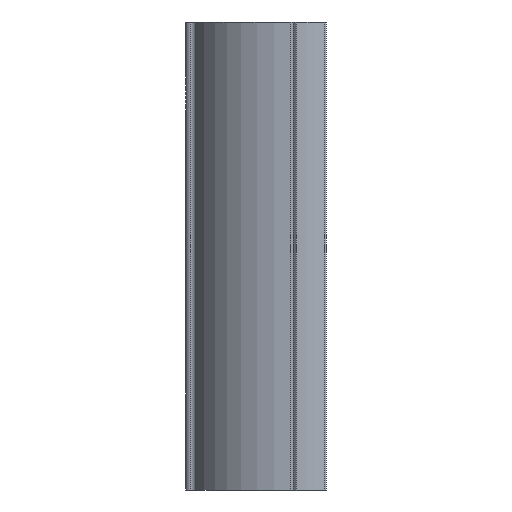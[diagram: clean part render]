
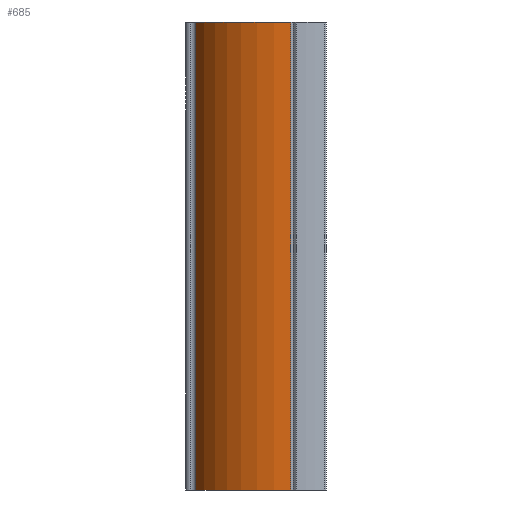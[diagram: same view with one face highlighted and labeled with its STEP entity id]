
A CAD part, front view. The second image highlights one B-rep face of the part: STEP entity #685.
In plain terms, the highlighted cylindrical face has radius 11.5 mm (diameter 23 mm), a partial arc.
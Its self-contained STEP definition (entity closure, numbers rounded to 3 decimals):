
#627=CARTESIAN_POINT('',(11.204,-7.496,50.0));
#628=VERTEX_POINT('',#627);
#635=CARTESIAN_POINT('',(11.204,-7.496,0.0));
#636=VERTEX_POINT('',#635);
#637=CARTESIAN_POINT('',(11.204,-7.496,0.0));
#638=DIRECTION('',(0.0,0.0,1.0));
#639=VECTOR('',#638,50.0);
#640=LINE('',#637,#639);
#641=EDGE_CURVE('',#636,#628,#640,.T.);
#653=CARTESIAN_POINT('',(11.5,4.,0.0));
#654=DIRECTION('',(0.0,0.0,1.0));
#655=DIRECTION('',(0.909,0.416,0.0));
#656=AXIS2_PLACEMENT_3D('',#653,#654,#655);
#657=CYLINDRICAL_SURFACE('',#656,11.5);
#658=CARTESIAN_POINT('',(1.044,-0.788,50.0));
#659=VERTEX_POINT('',#658);
#660=CARTESIAN_POINT('',(11.5,4.,50.0));
#661=DIRECTION('',(0.0,0.0,-1.0));
#662=DIRECTION('',(0.909,0.416,0.0));
#663=AXIS2_PLACEMENT_3D('',#660,#661,#662);
#664=CIRCLE('',#663,11.5);
#665=EDGE_CURVE('',#628,#659,#664,.T.);
#666=ORIENTED_EDGE('',*,*,#665,.T.);
#667=CARTESIAN_POINT('',(1.044,-0.788,0.0));
#668=VERTEX_POINT('',#667);
#669=CARTESIAN_POINT('',(1.044,-0.788,0.0));
#670=DIRECTION('',(0.0,0.0,1.0));
#671=VECTOR('',#670,50.0);
#672=LINE('',#669,#671);
#673=EDGE_CURVE('',#668,#659,#672,.T.);
#674=ORIENTED_EDGE('',*,*,#673,.F.);
#675=CARTESIAN_POINT('',(11.5,4.,0.0));
#676=DIRECTION('',(0.0,0.0,-1.0));
#677=DIRECTION('',(0.909,0.416,0.0));
#678=AXIS2_PLACEMENT_3D('',#675,#676,#677);
#679=CIRCLE('',#678,11.5);
#680=EDGE_CURVE('',#636,#668,#679,.T.);
#681=ORIENTED_EDGE('',*,*,#680,.F.);
#682=ORIENTED_EDGE('',*,*,#641,.T.);
#683=EDGE_LOOP('',(#666,#674,#681,#682));
#684=FACE_OUTER_BOUND('',#683,.T.);
#685=ADVANCED_FACE('',(#684),#657,.T.);
